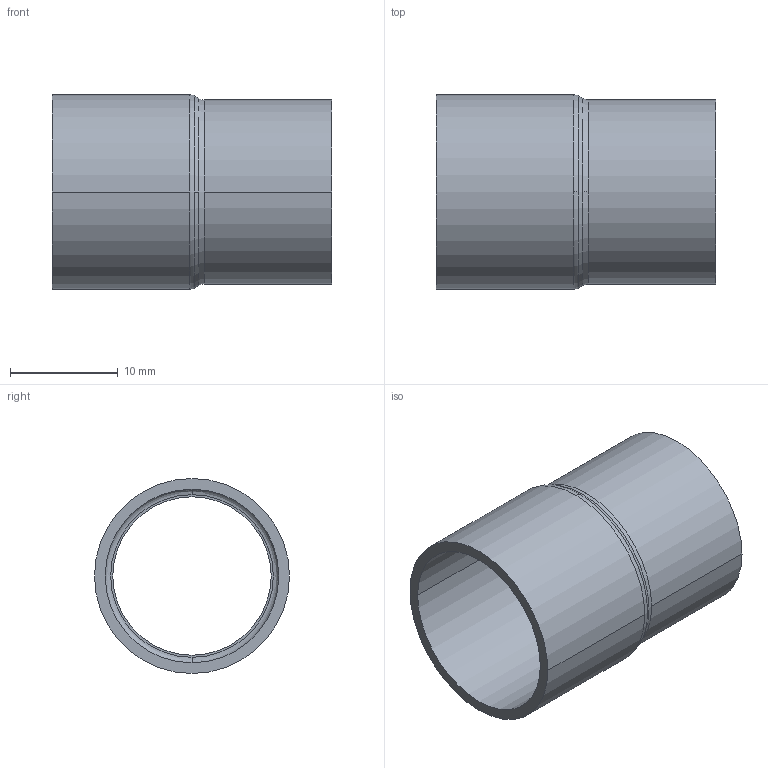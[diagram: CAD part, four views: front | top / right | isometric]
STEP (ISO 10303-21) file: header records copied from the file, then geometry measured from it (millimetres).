
FILE_DESCRIPTION((''),'2;1');
FILE_NAME('G:\Technics\CAD\Bauteile\Serie 15240\152401615.stp','2005-10-21T12:51:04',('boden'),(''),'Autodesk Inventor 8','Autodesk Inventor 8','');
FILE_SCHEMA(('AUTOMOTIVE_DESIGN { 1 0 10303 214 1 1 1 1 }'));
Length unit declared in the file: millimetre
Products named in the file (1): 152401615
Bounding box: 26 x 18.11 x 18.11 mm (x, y, z)
Volume: 1363.7 mm3; surface area: 2858.5 mm2
Topology: 1 solids, 1 shells, 22 faces, 55 edges, 37 vertices
Faces by surface type: cylinder 10, bspline 4, plane 4, cone 2, torus 2
Entity records: 877 total; most frequent: CARTESIAN_POINT 291, DIRECTION 136, ORIENTED_EDGE 110, AXIS2_PLACEMENT_3D 62, EDGE_CURVE 55, CIRCLE 43, VERTEX_POINT 37, EDGE_LOOP 26
